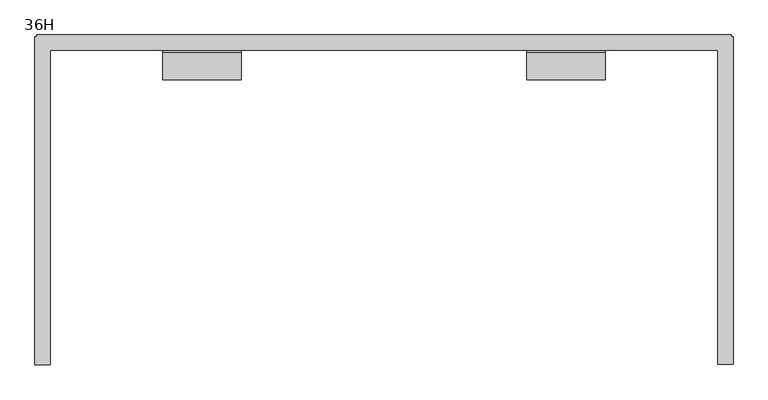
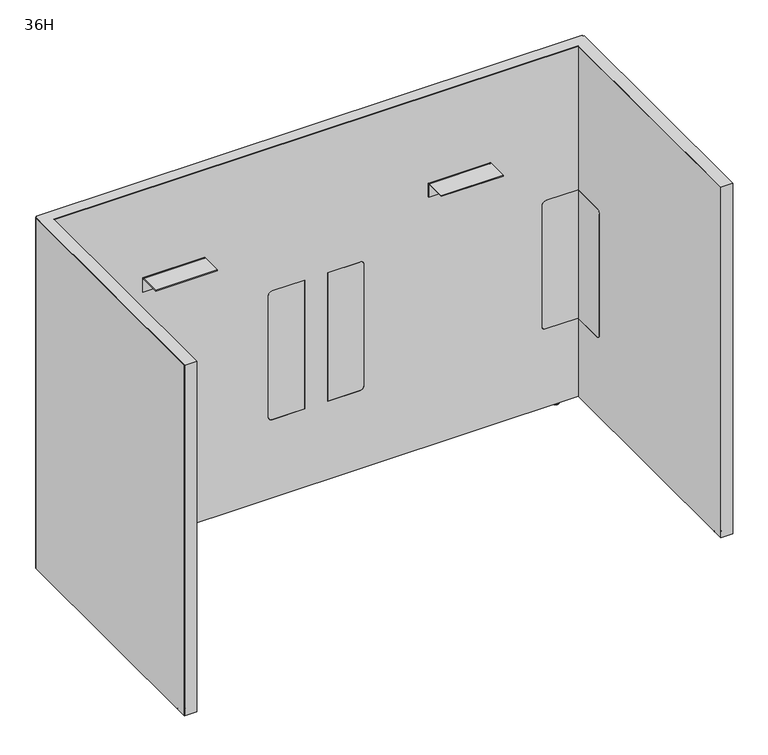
"""IFC4 building model written with IfcOpenShell, lengths in millimetres: furniture geometry, Steelcase - Answer Solution - Boundary Screen - L Return - Split : 36H."""

from ifc_helpers import new_model, si_unit, point, frame, frame_2d, origin, place, context, project, spatial, polyline, circle_curve, ellipse_curve, trimmed, segment, composite_curve, outline, extrude, faceted_brep, source, transform, mapped, element, save
from ifc_brep_helpers import plane_surface, cylinder_surface, revolved_surface, advanced_brep


def furniture_36h_0b0cf438(model_context):
    return source(origin(), model_context, "Body", "SolidModel", [
        extrude(outline(composite_curve([segment(polyline([(-109.3501471, 549.6162029), (-29.0550397, 549.6162029), (-29.0550397, 213.7762137), (-109.3501471, 213.7762137)]), True, "CONTINUOUS"), segment(trimmed(circle_curve(frame_2d((-109.3501471, 223.9362137)), 10.16), [point((-109.3501471, 213.7762137))], [point((-119.5101471, 223.9362137))], False, "CARTESIAN"), True, "CONTINUOUS"), segment(polyline([(-119.5101471, 223.9362137), (-119.5101471, 539.4562029)]), True, "CONTINUOUS"), segment(trimmed(circle_curve(frame_2d((-109.3501471, 539.4562029)), 10.16), [point((-119.5101471, 539.4562029))], [point((-109.3501471, 549.6162029))], False, "CARTESIAN"), True, "CONTINUOUS")], self_intersect=False)), frame((-418.5209652, 0.0, 0.0), z_axis=(1.0, 0.0, 0.0), x_axis=(0.0, 1.0, 0.0)), (0.0, 0.0, 1.0), 0.6401544),
        extrude(outline(composite_curve([segment(polyline([(-109.3501471, 549.6162029), (-29.0550397, 549.6162029), (-29.0550397, 213.7762137), (-109.3501471, 213.7762137)]), True, "CONTINUOUS"), segment(trimmed(circle_curve(frame_2d((-109.3501471, 223.9362137)), 10.16), [point((-109.3501471, 213.7762137))], [point((-119.5101471, 223.9362137))], False, "CARTESIAN"), True, "CONTINUOUS"), segment(polyline([(-119.5101471, 223.9362137), (-119.5101471, 539.4562029)]), True, "CONTINUOUS"), segment(trimmed(circle_curve(frame_2d((-109.3501471, 539.4562029)), 10.16), [point((-119.5101471, 539.4562029))], [point((-109.3501471, 549.6162029))], False, "CARTESIAN"), True, "CONTINUOUS")], self_intersect=False)), frame((877.5191891, 0.0, 0.0), z_axis=(1.0, 0.0, 0.0), x_axis=(0.0, 1.0, 0.0)), (0.0, 0.0, 1.0), 0.6401544),
        advanced_brep(
        [(892.3672074, -600.4136072, 0.0), (899.3216144, -600.4136072, 0.0), (885.4128003, -600.4136072, 0.0), (900.7762685, -600.4136072, 1.2700001), (883.9581463, -600.4136072, 1.2700001), (900.7762685, -600.4136072, 2.9673238), (883.9581463, -600.4136072, 2.9673238), (901.7427877, -600.4136072, 2.9673238), (882.991627, -600.4136072, 2.9673238), (901.7427877, -600.4136072, 9.9059849), (882.991627, -600.4136072, 9.9059849), (892.3672074, -600.4136072, 9.9059849)],
        [
            (0, 1),
            (1, 2, circle_curve(frame((892.3672074, -600.4136072, 0.0), z_axis=(0.0, 0.0, -1.0), x_axis=(1.0, 0.0, 0.0)), 6.9544071)),
            (2, 0),
            (2, 1, circle_curve(frame((892.3672074, -600.4136072, 0.0), z_axis=(0.0, 0.0, -1.0), x_axis=(1.0, 0.0, 0.0)), 6.9544071)),
            (1, 3, circle_curve(frame((899.4945484, -600.4136072, 1.2700001), z_axis=(0.0, -1.0, 0.0), x_axis=(0.0, 0.0, 1.0)), 1.2817201)),
            (3, 4, circle_curve(frame((892.3672074, -600.4136072, 1.2700001), z_axis=(0.0, 0.0, -1.0), x_axis=(1.0, 0.0, 0.0)), 8.4090611)),
            (4, 2, circle_curve(frame((885.2398663, -600.4136072, 1.2700001), z_axis=(0.0, -1.0, 0.0), x_axis=(0.0, 0.0, 1.0)), 1.2817201)),
            (4, 3, circle_curve(frame((892.3672074, -600.4136072, 1.2700001), z_axis=(0.0, 0.0, -1.0), x_axis=(1.0, 0.0, 0.0)), 8.4090611)),
            (3, 5),
            (5, 6, circle_curve(frame((892.3672074, -600.4136072, 2.9673238), z_axis=(0.0, 0.0, -1.0), x_axis=(1.0, 0.0, 0.0)), 8.4090611)),
            (6, 4),
            (6, 5, circle_curve(frame((892.3672074, -600.4136072, 2.9673238), z_axis=(0.0, 0.0, -1.0), x_axis=(1.0, 0.0, 0.0)), 8.4090611)),
            (5, 7),
            (7, 8, circle_curve(frame((892.3672074, -600.4136072, 2.9673238), z_axis=(0.0, 0.0, -1.0), x_axis=(1.0, 0.0, 0.0)), 9.3755804)),
            (8, 6),
            (8, 7, circle_curve(frame((892.3672074, -600.4136072, 2.9673238), z_axis=(0.0, 0.0, -1.0), x_axis=(1.0, 0.0, 0.0)), 9.3755804)),
            (7, 9),
            (9, 10, circle_curve(frame((892.3672074, -600.4136072, 9.9059849), z_axis=(0.0, 0.0, -1.0), x_axis=(1.0, 0.0, 0.0)), 9.3755804)),
            (10, 8),
            (10, 9, circle_curve(frame((892.3672074, -600.4136072, 9.9059849), z_axis=(0.0, 0.0, -1.0), x_axis=(1.0, 0.0, 0.0)), 9.3755804)),
            (9, 11),
            (11, 10),
        ],
        [
            plane_surface(frame((892.3672074, -600.4136072, 0.0), z_axis=(0.0, 0.0, -1.0), x_axis=(1.0, 0.0, 0.0))),
            revolved_surface(trimmed(ellipse_curve(frame((899.4945484, -600.4136072, 1.2700001), z_axis=(0.0, 1.0, 0.0), x_axis=(0.0, 0.0, 1.0)), 1.2817201, 1.2817201), [point((900.7762685, -600.4136072, 1.2700001))], [point((899.3216144, -600.4136072, 0.0))], True, "CARTESIAN"), (892.3672074, -600.4136072, 9.9059849), (0.0, 0.0, -1.0)),
            cylinder_surface(frame((892.3672074, -600.4136072, 9.9059849), z_axis=(0.0, 0.0, -1.0), x_axis=(1.0, 0.0, 0.0)), 8.4090611),
            plane_surface(frame((892.3672074, -600.4136072, 2.9673238), z_axis=(0.0, 0.0, -1.0), x_axis=(1.0, 0.0, 0.0))),
            cylinder_surface(frame((892.3672074, -600.4136072, 9.9059849), z_axis=(0.0, 0.0, -1.0), x_axis=(1.0, 0.0, 0.0)), 9.3755804),
            plane_surface(frame((892.3672074, -600.4136072, 9.9059849), z_axis=(0.0, 0.0, 1.0), x_axis=(1.0, 0.0, 0.0))),
        ],
        [
            (0, [[1, 2, 3]]),
            (0, [[-3, 4, -1]]),
            (1, [[-2, 5, 6, 7]]),
            (1, [[-4, -7, 8, -5]]),
            (2, [[-6, 9, 10, 11]]),
            (2, [[-8, -11, 12, -9]]),
            (3, [[-10, 13, 14, 15]]),
            (3, [[-12, -15, 16, -13]]),
            (4, [[-14, 17, 18, 19]]),
            (4, [[-16, -19, 20, -17]]),
            (5, [[-18, 21, 22]]),
            (5, [[-20, -22, -21]]),
        ],
    ),
        advanced_brep(
        [(-425.774422, -601.4042444, 0.0), (-439.6832361, -601.4042444, 0.0), (-432.7288291, -601.4042444, 0.0), (-424.319768, -601.4042444, 1.2700001), (-441.1378902, -601.4042444, 1.2700001), (-424.319768, -601.4042444, 2.9673238), (-441.1378902, -601.4042444, 2.9673238), (-423.3532487, -601.4042444, 2.9673238), (-442.1044095, -601.4042444, 2.9673238), (-423.3532487, -601.4042444, 9.9059849), (-442.1044095, -601.4042444, 9.9059849), (-432.7288291, -601.4042444, 9.9059849)],
        [
            (0, 1, circle_curve(frame((-432.7288291, -601.4042444, 0.0), z_axis=(0.0, 0.0, -1.0), x_axis=(-1.0, 0.0, 0.0)), 6.9544071)),
            (1, 2),
            (2, 0),
            (1, 0, circle_curve(frame((-432.7288291, -601.4042444, 0.0), z_axis=(0.0, 0.0, -1.0), x_axis=(-1.0, 0.0, 0.0)), 6.9544071)),
            (3, 4, circle_curve(frame((-432.7288291, -601.4042444, 1.2700001), z_axis=(0.0, 0.0, -1.0), x_axis=(-1.0, 0.0, 0.0)), 8.4090611)),
            (4, 1, circle_curve(frame((-439.8561701, -601.4042444, 1.2700001), z_axis=(0.0, -1.0, 0.0), x_axis=(0.0, 0.0, 1.0)), 1.2817201)),
            (0, 3, circle_curve(frame((-425.6014881, -601.4042444, 1.2700001), z_axis=(0.0, -1.0, 0.0), x_axis=(0.0, 0.0, 1.0)), 1.2817201)),
            (4, 3, circle_curve(frame((-432.7288291, -601.4042444, 1.2700001), z_axis=(0.0, 0.0, -1.0), x_axis=(-1.0, 0.0, 0.0)), 8.4090611)),
            (5, 6, circle_curve(frame((-432.7288291, -601.4042444, 2.9673238), z_axis=(0.0, 0.0, -1.0), x_axis=(-1.0, 0.0, 0.0)), 8.4090611)),
            (6, 4),
            (3, 5),
            (6, 5, circle_curve(frame((-432.7288291, -601.4042444, 2.9673238), z_axis=(0.0, 0.0, -1.0), x_axis=(-1.0, 0.0, 0.0)), 8.4090611)),
            (7, 8, circle_curve(frame((-432.7288291, -601.4042444, 2.9673238), z_axis=(0.0, 0.0, -1.0), x_axis=(-1.0, 0.0, 0.0)), 9.3755804)),
            (8, 6),
            (5, 7),
            (8, 7, circle_curve(frame((-432.7288291, -601.4042444, 2.9673238), z_axis=(0.0, 0.0, -1.0), x_axis=(-1.0, 0.0, 0.0)), 9.3755804)),
            (9, 10, circle_curve(frame((-432.7288291, -601.4042444, 9.9059849), z_axis=(0.0, 0.0, -1.0), x_axis=(-1.0, 0.0, 0.0)), 9.3755804)),
            (10, 8),
            (7, 9),
            (10, 9, circle_curve(frame((-432.7288291, -601.4042444, 9.9059849), z_axis=(0.0, 0.0, -1.0), x_axis=(-1.0, 0.0, 0.0)), 9.3755804)),
            (11, 10),
            (9, 11),
        ],
        [
            plane_surface(frame((-432.7288291, -601.4042444, 0.0), z_axis=(0.0, 0.0, -1.0), x_axis=(-1.0, 0.0, 0.0))),
            revolved_surface(trimmed(ellipse_curve(frame((-439.8561701, -601.4042444, 1.2700001), z_axis=(0.0, 1.0, 0.0), x_axis=(0.0, 0.0, 1.0)), 1.2817201, 1.2817201), [point((-439.6832361, -601.4042444, 0.0))], [point((-441.1378902, -601.4042444, 1.2700001))], True, "CARTESIAN"), (-432.7288291, -601.4042444, 9.9059849), (0.0, 0.0, 1.0)),
            cylinder_surface(frame((-432.7288291, -601.4042444, 9.9059849), z_axis=(0.0, 0.0, 1.0), x_axis=(-1.0, 0.0, 0.0)), 8.4090611),
            plane_surface(frame((-432.7288291, -601.4042444, 2.9673238), z_axis=(0.0, 0.0, -1.0), x_axis=(-1.0, 0.0, 0.0))),
            cylinder_surface(frame((-432.7288291, -601.4042444, 9.9059849), z_axis=(0.0, 0.0, 1.0), x_axis=(-1.0, 0.0, 0.0)), 9.3755804),
            plane_surface(frame((-432.7288291, -601.4042444, 9.9059849), z_axis=(0.0, 0.0, 1.0), x_axis=(-1.0, 0.0, 0.0))),
        ],
        [
            (0, [[1, 2, 3]]),
            (0, [[4, -3, -2]]),
            (1, [[5, 6, -1, 7]]),
            (1, [[8, -7, -4, -6]]),
            (2, [[9, 10, -5, 11]]),
            (2, [[12, -11, -8, -10]]),
            (3, [[13, 14, -9, 15]]),
            (3, [[16, -15, -12, -14]]),
            (4, [[17, 18, -13, 19]]),
            (4, [[20, -19, -16, -18]]),
            (5, [[21, -17, 22]]),
            (5, [[-22, -20, -21]]),
        ],
    ),
        faceted_brep([(903.9531179, 0.0, 925.322), (903.9531179, 0.0, 9.9059849), (902.9621491, 0.0, 9.9059849), (902.9621491, 0.0, 924.342118), (-443.3237709, 0.0, 924.342118), (-443.3237709, 0.0, 9.9059849), (-444.3147397, 0.0, 9.9059849), (-444.3147397, 0.0, 925.322), (-444.3147397, -29.6898332, 9.9059849), (-443.3237709, -29.6898332, 9.9059849), (-443.3237709, -29.6898332, 924.342118), (-444.3147397, -29.6898332, 924.342118), (902.9621491, -29.6898332, 924.342118), (902.9621491, -29.6898332, 9.9059849), (903.9531179, -29.6898332, 9.9059849), (903.9531179, -29.6898332, 924.342118), (-417.8808109, -29.6898332, 925.322), (-417.8808109, -29.6898332, 924.342118), (877.5191891, -29.6898332, 924.342118), (877.5191891, -29.6898332, 925.322), (903.9531179, -3.2625916, 925.322), (903.9531179, -3.2625916, 9.9059849), (903.9531179, -4.252647, 9.9059849), (903.9531179, -4.252647, 924.342118), (907.2152256, -3.2625916, 9.9059849), (907.2152256, -4.252647, 9.9059849), (902.9621491, -4.252647, 9.9059849), (877.5191891, -4.252647, 9.9059849), (877.5191891, -3.2625916, 9.9059849), (902.9621491, -3.2625916, 9.9059849), (-444.3147397, -3.2625916, 9.9059849), (-444.3147397, -3.2625916, 925.322), (-444.3147397, -4.252647, 924.342118), (-444.3147397, -4.252647, 9.9059849), (-447.5768473, -3.2625916, 925.322), (-447.5768473, -640.2804704, 925.322), (-417.8808109, -640.2804704, 925.322), (877.5191891, -639.2898332, 925.322), (907.2152256, -639.2898332, 925.322), (907.2152256, -3.2625916, 925.322), (902.9621491, -3.2625916, 924.342118), (902.9621491, -4.252647, 924.342118), (877.5191891, -3.2625916, 924.342118), (877.5191891, -4.252647, 924.342118), (907.2152256, -4.252647, 924.342118), (907.2152256, -638.299196, 924.342118), (877.5191891, -638.299196, 924.342118), (-417.8808109, -639.2898332, 924.342118), (-447.5768473, -639.2898332, 924.342118), (-447.5768473, -4.252647, 924.342118), (-443.3237709, -4.252647, 924.342118), (-417.8808109, -4.252647, 924.342118), (-417.8808109, -3.2625916, 924.342118), (-443.3237709, -3.2625916, 924.342118), (-443.3237709, -3.2625916, 9.9059849), (-443.3237709, -4.252647, 9.9059849), (-417.8808109, -3.2625916, 9.9059849), (-417.8808109, -4.252647, 9.9059849), (-447.5768473, -4.252647, 9.9059849), (-447.5768473, -3.2625916, 9.9059849), (-417.8808109, -640.2804704, 9.9059849), (-417.8808109, -639.2898332, 9.9059849), (-447.5768473, -639.2898332, 9.9059849), (-447.5768473, -640.2804704, 9.9059849), (877.5191891, -638.299196, 9.9059849), (877.5191891, -639.2898332, 9.9059849), (907.2152256, -639.2898332, 9.9059849), (907.2152256, -638.299196, 9.9059849)], [[[0, 1, 2, 3, 4, 5, 6, 7]], [[8, 9, 10, 11]], [[12, 13, 14, 15]], [[16, 17, 18, 19]], [[1, 0, 20, 21]], [[15, 14, 22, 23]], [[2, 1, 21, 24, 25, 22, 14, 13, 26, 27, 28, 29]], [[7, 6, 30, 31]], [[8, 11, 32, 33]], [[0, 7, 31, 34, 35, 36, 16, 19, 37, 38, 39, 20]], [[3, 2, 29, 40]], [[13, 12, 41, 26]], [[4, 3, 40, 42, 43, 41, 12, 15, 23, 44, 45, 46, 18, 17, 47, 48, 49, 32, 11, 10, 50, 51, 52, 53]], [[5, 4, 53, 54]], [[10, 9, 55, 50]], [[6, 5, 54, 56, 57, 55, 9, 8, 33, 58, 59, 30]], [[36, 60, 61, 47, 17, 16]], [[51, 57, 56, 52]], [[35, 34, 59, 58, 49, 48, 62, 63]], [[56, 54, 53, 52]], [[59, 34, 31, 30]], [[57, 51, 50, 55]], [[49, 58, 33, 32]], [[47, 61, 62, 48]], [[61, 60, 63, 62]], [[60, 36, 35, 63]], [[28, 27, 43, 42]], [[46, 64, 65, 37, 19, 18]], [[38, 66, 67, 45, 44, 25, 24, 39]], [[29, 28, 42, 40]], [[39, 24, 21, 20]], [[43, 27, 26, 41]], [[25, 44, 23, 22]], [[64, 46, 45, 67]], [[65, 64, 67, 66]], [[37, 65, 66, 38]]]),
        advanced_brep(
        [(-370.386307, -14.8449166, 9.9059849), (-370.386307, -5.9309607, 9.9059849), (-370.386307, -23.7588726, 9.9059849), (-370.386307, -5.9309607, 2.9673238), (-370.386307, -23.7588726, 2.9673238), (-370.386307, -6.8982978, 2.9673238), (-370.386307, -22.7915354, 2.9673238), (-370.386307, -6.8982978, 1.6569081), (-370.386307, -22.7915354, 1.6569081), (-370.386307, -8.5552059, 0.0), (-370.386307, -21.1346274, 0.0), (-370.386307, -14.8449166, 0.0)],
        [
            (0, 1),
            (1, 2, circle_curve(frame((-370.386307, -14.8449166, 9.9059849), z_axis=(0.0, 0.0, 1.0), x_axis=(0.0, 1.0, 0.0)), 8.913956)),
            (2, 0),
            (2, 1, circle_curve(frame((-370.386307, -14.8449166, 9.9059849), z_axis=(0.0, 0.0, 1.0), x_axis=(0.0, 1.0, 0.0)), 8.913956)),
            (1, 3),
            (3, 4, circle_curve(frame((-370.386307, -14.8449166, 2.9673238), z_axis=(0.0, 0.0, 1.0), x_axis=(0.0, 1.0, 0.0)), 8.913956)),
            (4, 2),
            (4, 3, circle_curve(frame((-370.386307, -14.8449166, 2.9673238), z_axis=(0.0, 0.0, 1.0), x_axis=(0.0, 1.0, 0.0)), 8.913956)),
            (3, 5),
            (5, 6, circle_curve(frame((-370.386307, -14.8449166, 2.9673238), z_axis=(0.0, 0.0, 1.0), x_axis=(0.0, 1.0, 0.0)), 7.9466188)),
            (6, 4),
            (6, 5, circle_curve(frame((-370.386307, -14.8449166, 2.9673238), z_axis=(0.0, 0.0, 1.0), x_axis=(0.0, 1.0, 0.0)), 7.9466188)),
            (5, 7),
            (7, 8, circle_curve(frame((-370.386307, -14.8449166, 1.6569081), z_axis=(0.0, 0.0, 1.0), x_axis=(0.0, 1.0, 0.0)), 7.9466188)),
            (8, 6),
            (8, 7, circle_curve(frame((-370.386307, -14.8449166, 1.6569081), z_axis=(0.0, 0.0, 1.0), x_axis=(0.0, 1.0, 0.0)), 7.9466188)),
            (7, 9, circle_curve(frame((-370.386307, -8.5552059, 1.6569081), z_axis=(-1.0, 0.0, 0.0), x_axis=(0.0, 1.0, 0.0)), 1.6569081)),
            (9, 10, circle_curve(frame((-370.386307, -14.8449166, 0.0), z_axis=(0.0, 0.0, 1.0), x_axis=(0.0, 1.0, 0.0)), 6.2897107)),
            (10, 8, circle_curve(frame((-370.386307, -21.1346274, 1.6569081), z_axis=(-1.0, 0.0, 0.0), x_axis=(0.0, -1.0, 0.0)), 1.6569081)),
            (10, 9, circle_curve(frame((-370.386307, -14.8449166, 0.0), z_axis=(0.0, 0.0, 1.0), x_axis=(0.0, 1.0, 0.0)), 6.2897107)),
            (9, 11),
            (11, 10),
        ],
        [
            plane_surface(frame((-370.386307, -14.8449166, 9.9059849), z_axis=(0.0, 0.0, 1.0), x_axis=(0.0, 1.0, 0.0))),
            cylinder_surface(frame((-370.386307, -14.8449166, 9.9059849), z_axis=(0.0, 0.0, 1.0), x_axis=(0.0, 1.0, 0.0)), 8.913956),
            plane_surface(frame((-370.386307, -14.8449166, 2.9673238), z_axis=(0.0, 0.0, -1.0), x_axis=(0.0, 1.0, 0.0))),
            cylinder_surface(frame((-370.386307, -14.8449166, 9.9059849), z_axis=(0.0, 0.0, 1.0), x_axis=(0.0, 1.0, 0.0)), 7.9466188),
            revolved_surface(trimmed(ellipse_curve(frame((-370.386307, -8.5552059, 1.6569081), z_axis=(1.0, 0.0, 0.0), x_axis=(0.0, 1.0, 0.0)), 1.6569081, 1.6569081), [point((-370.386307, -8.5552059, 0.0))], [point((-370.386307, -6.8982978, 1.6569081))], True, "CARTESIAN"), (-370.386307, -14.8449166, 9.9059849), (0.0, 0.0, 1.0)),
            plane_surface(frame((-370.386307, -14.8449166, 0.0), z_axis=(0.0, 0.0, -1.0), x_axis=(0.0, 1.0, 0.0))),
        ],
        [
            (0, [[1, 2, 3]]),
            (0, [[-3, 4, -1]]),
            (1, [[-2, 5, 6, 7]]),
            (1, [[-4, -7, 8, -5]]),
            (2, [[-6, 9, 10, 11]]),
            (2, [[-8, -11, 12, -9]]),
            (3, [[-10, 13, 14, 15]]),
            (3, [[-12, -15, 16, -13]]),
            (4, [[-14, 17, 18, 19]]),
            (4, [[-16, -19, 20, -17]]),
            (5, [[-18, 21, 22]]),
            (5, [[-20, -22, -21]]),
        ],
    ),
        extrude(outline(composite_curve([segment(polyline([(-86.8398151, 696.4680019), (-86.8398151, 698.5), (-34.9450855, 698.5)]), True, "CONTINUOUS"), segment(trimmed(circle_curve(frame_2d((-34.9450855, 693.2447477)), 5.2552523), [point((-34.9450855, 698.5))], [point((-29.6898332, 693.2447477))], False, "CARTESIAN"), True, "CONTINUOUS"), segment(polyline([(-29.6898332, 693.2447477), (-29.6898332, 660.4), (-31.7218162, 660.4), (-31.7218162, 693.0058743)]), True, "CONTINUOUS"), segment(trimmed(circle_curve(frame_2d((-35.1839438, 693.0058743)), 3.4621276), [point((-31.7218162, 693.0058743))], [point((-35.1839438, 696.4680019))], True, "CARTESIAN"), True, "CONTINUOUS"), segment(polyline([(-35.1839438, 696.4680019), (-86.8398151, 696.4680019)]), True, "CONTINUOUS")], self_intersect=False)), frame((506.4762371, 0.0, 0.0), z_axis=(1.0, 0.0, 0.0), x_axis=(0.0, 1.0, 0.0)), (0.0, 0.0, 1.0), 152.4000969),
        extrude(outline(composite_curve([segment(polyline([(-86.8398151, 696.4680019), (-86.8398151, 698.5), (-34.9450855, 698.5)]), True, "CONTINUOUS"), segment(trimmed(circle_curve(frame_2d((-34.9450855, 693.2447477)), 5.2552523), [point((-34.9450855, 698.5))], [point((-29.6898332, 693.2447477))], False, "CARTESIAN"), True, "CONTINUOUS"), segment(polyline([(-29.6898332, 693.2447477), (-29.6898332, 660.4), (-31.7218162, 660.4), (-31.7218162, 693.0058743)]), True, "CONTINUOUS"), segment(trimmed(circle_curve(frame_2d((-35.1839438, 693.0058743)), 3.4621276), [point((-31.7218162, 693.0058743))], [point((-35.1839438, 696.4680019))], True, "CARTESIAN"), True, "CONTINUOUS"), segment(polyline([(-35.1839438, 696.4680019), (-86.8398151, 696.4680019)]), True, "CONTINUOUS")], self_intersect=False)), frame((-199.2364763, 0.0, 0.0), z_axis=(1.0, 0.0, 0.0), x_axis=(0.0, 1.0, 0.0)), (0.0, 0.0, 1.0), 152.4000969),
        advanced_brep(
        [(830.0246853, -23.7588726, 9.9059849), (830.0246853, -5.9309607, 9.9059849), (830.0246853, -14.8449166, 9.9059849), (830.0246853, -23.7588726, 2.9673238), (830.0246853, -5.9309607, 2.9673238), (830.0246853, -22.7915354, 2.9673238), (830.0246853, -6.8982978, 2.9673238), (830.0246853, -22.7915354, 1.6569081), (830.0246853, -6.8982978, 1.6569081), (830.0246853, -21.1346274, 0.0), (830.0246853, -8.5552059, 0.0), (830.0246853, -14.8449166, 0.0)],
        [
            (0, 1, circle_curve(frame((830.0246853, -14.8449166, 9.9059849), z_axis=(0.0, 0.0, 1.0), x_axis=(0.0, 1.0, 0.0)), 8.913956)),
            (1, 2),
            (2, 0),
            (1, 0, circle_curve(frame((830.0246853, -14.8449166, 9.9059849), z_axis=(0.0, 0.0, 1.0), x_axis=(0.0, 1.0, 0.0)), 8.913956)),
            (3, 4, circle_curve(frame((830.0246853, -14.8449166, 2.9673238), z_axis=(0.0, 0.0, 1.0), x_axis=(0.0, 1.0, 0.0)), 8.913956)),
            (4, 1),
            (0, 3),
            (4, 3, circle_curve(frame((830.0246853, -14.8449166, 2.9673238), z_axis=(0.0, 0.0, 1.0), x_axis=(0.0, 1.0, 0.0)), 8.913956)),
            (5, 6, circle_curve(frame((830.0246853, -14.8449166, 2.9673238), z_axis=(0.0, 0.0, 1.0), x_axis=(0.0, 1.0, 0.0)), 7.9466188)),
            (6, 4),
            (3, 5),
            (6, 5, circle_curve(frame((830.0246853, -14.8449166, 2.9673238), z_axis=(0.0, 0.0, 1.0), x_axis=(0.0, 1.0, 0.0)), 7.9466188)),
            (7, 8, circle_curve(frame((830.0246853, -14.8449166, 1.6569081), z_axis=(0.0, 0.0, 1.0), x_axis=(0.0, 1.0, 0.0)), 7.9466188)),
            (8, 6),
            (5, 7),
            (8, 7, circle_curve(frame((830.0246853, -14.8449166, 1.6569081), z_axis=(0.0, 0.0, 1.0), x_axis=(0.0, 1.0, 0.0)), 7.9466188)),
            (9, 10, circle_curve(frame((830.0246853, -14.8449166, 0.0), z_axis=(0.0, 0.0, 1.0), x_axis=(0.0, 1.0, 0.0)), 6.2897107)),
            (10, 8, circle_curve(frame((830.0246853, -8.5552059, 1.6569081), z_axis=(1.0, 0.0, 0.0), x_axis=(0.0, 1.0, 0.0)), 1.6569081)),
            (7, 9, circle_curve(frame((830.0246853, -21.1346274, 1.6569081), z_axis=(1.0, 0.0, 0.0), x_axis=(0.0, -1.0, 0.0)), 1.6569081)),
            (10, 9, circle_curve(frame((830.0246853, -14.8449166, 0.0), z_axis=(0.0, 0.0, 1.0), x_axis=(0.0, 1.0, 0.0)), 6.2897107)),
            (11, 10),
            (9, 11),
        ],
        [
            plane_surface(frame((830.0246853, -14.8449166, 9.9059849), z_axis=(0.0, 0.0, 1.0), x_axis=(0.0, 1.0, 0.0))),
            cylinder_surface(frame((830.0246853, -14.8449166, 9.9059849), z_axis=(0.0, 0.0, -1.0), x_axis=(0.0, 1.0, 0.0)), 8.913956),
            plane_surface(frame((830.0246853, -14.8449166, 2.9673238), z_axis=(0.0, 0.0, -1.0), x_axis=(0.0, 1.0, 0.0))),
            cylinder_surface(frame((830.0246853, -14.8449166, 9.9059849), z_axis=(0.0, 0.0, -1.0), x_axis=(0.0, 1.0, 0.0)), 7.9466188),
            revolved_surface(trimmed(ellipse_curve(frame((830.0246853, -8.5552059, 1.6569081), z_axis=(-1.0, 0.0, 0.0), x_axis=(0.0, 1.0, 0.0)), 1.6569081, 1.6569081), [point((830.0246853, -6.8982978, 1.6569081))], [point((830.0246853, -8.5552059, 0.0))], True, "CARTESIAN"), (830.0246853, -14.8449166, 9.9059849), (0.0, 0.0, -1.0)),
            plane_surface(frame((830.0246853, -14.8449166, 0.0), z_axis=(0.0, 0.0, -1.0), x_axis=(0.0, 1.0, 0.0))),
        ],
        [
            (0, [[1, 2, 3]]),
            (0, [[4, -3, -2]]),
            (1, [[5, 6, -1, 7]]),
            (1, [[8, -7, -4, -6]]),
            (2, [[9, 10, -5, 11]]),
            (2, [[12, -11, -8, -10]]),
            (3, [[13, 14, -9, 15]]),
            (3, [[16, -15, -12, -14]]),
            (4, [[17, 18, -13, 19]]),
            (4, [[20, -19, -16, -18]]),
            (5, [[21, -17, 22]]),
            (5, [[-22, -20, -21]]),
        ],
    ),
        advanced_brep(
        [(-443.3237709, 0.0, 924.342118), (902.9621491, 0.0, 924.342118), (902.9621491, 0.0, 9.9059849), (-443.3237709, 0.0, 9.9059849), (201.5038947, -29.0550397, 549.6162029), (121.849997, -29.0550397, 549.6162029), (111.689997, -29.0550397, 539.4562029), (111.689997, -29.0550397, 223.9362137), (121.849997, -29.0550397, 213.7762137), (201.5038947, -29.0550397, 213.7762137), (347.9483813, -29.0550397, 539.4562029), (337.7883813, -29.0550397, 549.6162029), (258.1344836, -29.0550397, 549.6162029), (258.1344836, -29.0550397, 213.7762137), (337.7883813, -29.0550397, 213.7762137), (347.9483813, -29.0550397, 223.9362137), (-418.5209652, -29.0550397, 549.6162029), (-418.5209652, -29.0550397, 213.7762137), (-337.9725485, -29.0550397, 213.7762137), (-327.8125485, -29.0550397, 223.9362137), (-327.8125485, -29.0550397, 539.4562029), (-337.9725485, -29.0550397, 549.6162029), (878.1593435, -29.0550397, 213.7762137), (878.1593435, -29.0550397, 549.6162029), (797.6109268, -29.0550397, 549.6162029), (787.4509268, -29.0550397, 539.4562029), (787.4509268, -29.0550397, 223.9362137), (797.6109268, -29.0550397, 213.7762137), (-417.8808109, -639.2898332, 924.342118), (-417.8808109, -639.2898332, 9.9059849), (-417.8808109, -29.6898332, 9.9059849), (-417.8808109, -29.6898332, 213.7762137), (-417.8808109, -109.3501471, 213.7762137), (-417.8808109, -119.5101471, 223.9362137), (-417.8808109, -119.5101471, 539.4562029), (-417.8808109, -109.3501471, 549.6162029), (-417.8808109, -29.6898332, 549.6162029), (-417.8808109, -29.6898332, 924.342118), (-447.5768473, -639.2898332, 924.342118), (-447.5768473, -4.252647, 924.342118), (-447.5768473, -4.252647, 9.9059849), (-447.5768473, -639.2898332, 9.9059849), (877.5191891, -29.6898332, 924.342118), (877.5191891, -638.299196, 924.342118), (907.2152256, -638.299196, 924.342118), (907.2152256, -4.252647, 924.342118), (902.9621491, -4.252647, 924.342118), (-443.3237709, -4.252647, 924.342118), (-443.3237709, -4.252647, 9.9059849), (902.9621491, -4.252647, 9.9059849), (907.2152256, -4.252647, 9.9059849), (907.2152256, -638.299196, 9.9059849), (877.5191891, -638.299196, 9.9059849), (877.5191891, -29.6898332, 9.9059849), (-418.5209652, -119.5101471, 539.4562029), (-418.5209652, -109.3501471, 549.6162029), (-418.5209652, -119.5101471, 223.9362137), (-418.5209652, -109.3501471, 213.7762137), (-337.9725485, -29.6898332, 213.7762137), (-337.9725485, -29.6898332, 549.6162029), (797.6109268, -29.6898332, 213.7762137), (787.4509268, -29.6898332, 223.9362137), (787.4509268, -29.6898332, 539.4562029), (797.6109268, -29.6898332, 549.6162029), (877.5191891, -29.6898332, 549.6162029), (-327.8125485, -29.6898332, 539.4562029), (-327.8125485, -29.6898332, 223.9362137), (877.5191891, -29.6898332, 213.7762137), (121.849997, -29.6898332, 549.6162029), (201.5038947, -29.6898332, 549.6162029), (201.5038947, -29.6898332, 213.7762137), (121.849997, -29.6898332, 213.7762137), (111.689997, -29.6898332, 223.9362137), (111.689997, -29.6898332, 539.4562029), (337.7883813, -29.6898332, 549.6162029), (347.9483813, -29.6898332, 539.4562029), (347.9483813, -29.6898332, 223.9362137), (337.7883813, -29.6898332, 213.7762137), (258.1344836, -29.6898332, 213.7762137), (258.1344836, -29.6898332, 549.6162029), (878.1593435, -109.3501471, 549.6162029), (877.5191891, -109.3501471, 549.6162029), (878.1593435, -109.3501471, 213.7762137), (878.1593435, -119.5101471, 223.9362137), (878.1593435, -119.5101471, 539.4562029), (877.5191891, -109.3501471, 213.7762137), (877.5191891, -119.5101471, 539.4562029), (877.5191891, -119.5101471, 223.9362137)],
        [
            (0, 1),
            (1, 2),
            (2, 3),
            (3, 0),
            (4, 5),
            (5, 6, circle_curve(frame((121.849997, -29.0550397, 539.4562029), z_axis=(0.0, -1.0, 0.0), x_axis=(0.0, 0.0, 1.0)), 10.16)),
            (6, 7),
            (7, 8, circle_curve(frame((121.849997, -29.0550397, 223.9362137), z_axis=(0.0, -1.0, 0.0), x_axis=(0.0, 0.0, 1.0)), 10.16)),
            (8, 9),
            (9, 4),
            (10, 11, circle_curve(frame((337.7883813, -29.0550397, 539.4562029), z_axis=(0.0, -1.0, 0.0), x_axis=(0.0, 0.0, 1.0)), 10.16)),
            (11, 12),
            (12, 13),
            (13, 14),
            (14, 15, circle_curve(frame((337.7883813, -29.0550397, 223.9362137), z_axis=(0.0, -1.0, 0.0), x_axis=(0.0, 0.0, 1.0)), 10.16)),
            (15, 10),
            (16, 17),
            (17, 18),
            (18, 19, circle_curve(frame((-337.9725485, -29.0550397, 223.9362137), z_axis=(0.0, -1.0, 0.0), x_axis=(0.0, 0.0, 1.0)), 10.16)),
            (19, 20),
            (20, 21, circle_curve(frame((-337.9725485, -29.0550397, 539.4562029), z_axis=(0.0, -1.0, 0.0), x_axis=(0.0, 0.0, 1.0)), 10.16)),
            (21, 16),
            (22, 23),
            (23, 24),
            (24, 25, circle_curve(frame((797.6109268, -29.0550397, 539.4562029), z_axis=(0.0, -1.0, 0.0), x_axis=(0.0, 0.0, 1.0)), 10.16)),
            (25, 26),
            (26, 27, circle_curve(frame((797.6109268, -29.0550397, 223.9362137), z_axis=(0.0, -1.0, 0.0), x_axis=(0.0, 0.0, 1.0)), 10.16)),
            (27, 22),
            (28, 29),
            (29, 30),
            (30, 31),
            (31, 32),
            (32, 33, circle_curve(frame((-417.8808109, -109.3501471, 223.9362137), z_axis=(-1.0, 0.0, 0.0), x_axis=(0.0, 1.0, 0.0)), 10.16)),
            (33, 34),
            (34, 35, circle_curve(frame((-417.8808109, -109.3501471, 539.4562029), z_axis=(-1.0, 0.0, 0.0), x_axis=(0.0, 1.0, 0.0)), 10.16)),
            (35, 36),
            (36, 37),
            (37, 28),
            (38, 39),
            (39, 40),
            (40, 41),
            (41, 38),
            (38, 28),
            (37, 42),
            (42, 43),
            (43, 44),
            (44, 45),
            (45, 46),
            (46, 1),
            (0, 47),
            (47, 39),
            (47, 48),
            (48, 40),
            (48, 3),
            (2, 49),
            (49, 50),
            (50, 51),
            (51, 52),
            (52, 53),
            (53, 30),
            (29, 41),
            (34, 54),
            (54, 55, circle_curve(frame((-418.5209652, -109.3501471, 539.4562029), z_axis=(-1.0, 0.0, 0.0), x_axis=(0.0, 1.0, 0.0)), 10.16)),
            (55, 35),
            (33, 56),
            (56, 54),
            (32, 57),
            (57, 56, circle_curve(frame((-418.5209652, -109.3501471, 223.9362137), z_axis=(-1.0, 0.0, 0.0), x_axis=(0.0, 1.0, 0.0)), 10.16)),
            (58, 18),
            (17, 57),
            (31, 58),
            (21, 59),
            (59, 36),
            (55, 16),
            (60, 61, circle_curve(frame((797.6109268, -29.6898332, 223.9362137), z_axis=(0.0, 1.0, 0.0), x_axis=(0.0, 0.0, 1.0)), 10.16)),
            (61, 62),
            (62, 63, circle_curve(frame((797.6109268, -29.6898332, 539.4562029), z_axis=(0.0, 1.0, 0.0), x_axis=(0.0, 0.0, 1.0)), 10.16)),
            (63, 64),
            (64, 42),
            (59, 65, circle_curve(frame((-337.9725485, -29.6898332, 539.4562029), z_axis=(0.0, 1.0, 0.0), x_axis=(0.0, 0.0, 1.0)), 10.16)),
            (65, 66),
            (66, 58, circle_curve(frame((-337.9725485, -29.6898332, 223.9362137), z_axis=(0.0, 1.0, 0.0), x_axis=(0.0, 0.0, 1.0)), 10.16)),
            (53, 67),
            (67, 60),
            (68, 69),
            (69, 70),
            (70, 71),
            (71, 72, circle_curve(frame((121.849997, -29.6898332, 223.9362137), z_axis=(0.0, 1.0, 0.0), x_axis=(0.0, 0.0, 1.0)), 10.16)),
            (72, 73),
            (73, 68, circle_curve(frame((121.849997, -29.6898332, 539.4562029), z_axis=(0.0, 1.0, 0.0), x_axis=(0.0, 0.0, 1.0)), 10.16)),
            (74, 75, circle_curve(frame((337.7883813, -29.6898332, 539.4562029), z_axis=(0.0, 1.0, 0.0), x_axis=(0.0, 0.0, 1.0)), 10.16)),
            (75, 76),
            (76, 77, circle_curve(frame((337.7883813, -29.6898332, 223.9362137), z_axis=(0.0, 1.0, 0.0), x_axis=(0.0, 0.0, 1.0)), 10.16)),
            (77, 78),
            (78, 79),
            (79, 74),
            (46, 49),
            (68, 5),
            (4, 69),
            (9, 70),
            (8, 71),
            (7, 72),
            (6, 73),
            (74, 11),
            (10, 75),
            (15, 76),
            (14, 77),
            (13, 78),
            (12, 79),
            (23, 80),
            (80, 81),
            (81, 64),
            (63, 24),
            (82, 83, circle_curve(frame((878.1593435, -109.3501471, 223.9362137), z_axis=(-1.0, 0.0, 0.0), x_axis=(0.0, 1.0, 0.0)), 10.16)),
            (83, 84),
            (84, 80, circle_curve(frame((878.1593435, -109.3501471, 539.4562029), z_axis=(-1.0, 0.0, 0.0), x_axis=(0.0, 1.0, 0.0)), 10.16)),
            (22, 82),
            (27, 60),
            (67, 85),
            (85, 82),
            (26, 61),
            (25, 62),
            (66, 19),
            (65, 20),
            (52, 43),
            (81, 86, circle_curve(frame((877.5191891, -109.3501471, 539.4562029), z_axis=(1.0, 0.0, 0.0), x_axis=(0.0, 1.0, 0.0)), 10.16)),
            (86, 87),
            (87, 85, circle_curve(frame((877.5191891, -109.3501471, 223.9362137), z_axis=(1.0, 0.0, 0.0), x_axis=(0.0, 1.0, 0.0)), 10.16)),
            (44, 51),
            (50, 45),
            (84, 86),
            (83, 87),
        ],
        [
            plane_surface(frame((347.9483813, 0.0, 549.6162029), z_axis=(0.0, 1.0, 0.0), x_axis=(0.0, 0.0, -1.0))),
            plane_surface(frame((347.9483813, -29.0550397, 549.6162029), z_axis=(0.0, -1.0, 0.0), x_axis=(0.0, 0.0, 1.0))),
            plane_surface(frame((-417.8808109, -4.252647, 924.342118), z_axis=(1.0, 0.0, 0.0), x_axis=(0.0, -1.0, 0.0))),
            plane_surface(frame((-447.5768473, -4.252647, 924.342118), z_axis=(-1.0, 0.0, 0.0), x_axis=(0.0, 1.0, 0.0))),
            plane_surface(frame((-447.5768473, -639.2898332, 924.342118), z_axis=(0.0, 0.0, 1.0), x_axis=(1.0, 0.0, 0.0))),
            plane_surface(frame((-447.5768473, -4.252647, 924.342118), z_axis=(0.0, 1.0, 0.0), x_axis=(1.0, 0.0, 0.0))),
            plane_surface(frame((-447.5768473, -4.252647, 9.9059849), z_axis=(0.0, 0.0, -1.0), x_axis=(1.0, 0.0, 0.0))),
            plane_surface(frame((-447.5768473, -639.2898332, 9.9059849), z_axis=(0.0, -1.0, 0.0), x_axis=(1.0, 0.0, 0.0))),
            revolved_surface(polyline([(-417.88081090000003, -99.1901471, 539.4562029), (-418.5209652, -99.1901471, 539.4562029)]), (830.0246853, -109.3501471, 539.4562029), (1.0, 0.0, 0.0)),
            plane_surface(frame((-447.5768473, -119.5101471, 539.4562029), z_axis=(0.0, 1.0, 0.0), x_axis=(1.0, 0.0, 0.0))),
            revolved_surface(polyline([(-417.88081090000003, -99.1901471, 223.9362137), (-418.5209652, -99.1901471, 223.9362137)]), (830.0246853, -109.3501471, 223.9362137), (1.0, 0.0, 0.0)),
            plane_surface(frame((-447.5768473, -109.3501471, 213.7762137), z_axis=(0.0, 0.0, 1.0), x_axis=(1.0, 0.0, 0.0))),
            plane_surface(frame((-447.5768473, -29.0550397, 549.6162029), z_axis=(0.0, 0.0, -1.0), x_axis=(1.0, 0.0, 0.0))),
            plane_surface(frame((902.9621491, -29.6898332, 924.342118), z_axis=(0.0, -1.0, 0.0), x_axis=(-1.0, 0.0, 0.0))),
            plane_surface(frame((-443.3237709, 0.0, 9.9059849), z_axis=(-1.0, 0.0, 0.0), x_axis=(0.0, -1.0, 0.0))),
            plane_surface(frame((902.9621491, 0.0, 924.342118), z_axis=(1.0, 0.0, 0.0), x_axis=(0.0, -1.0, 0.0))),
            plane_surface(frame((201.5038947, 0.0, 549.6162029), z_axis=(0.0, 0.0, -1.0), x_axis=(0.0, -1.0, 0.0))),
            plane_surface(frame((201.5038947, 0.0, 213.7762137), z_axis=(-1.0, 0.0, 0.0), x_axis=(0.0, -1.0, 0.0))),
            plane_surface(frame((121.849997, 0.0, 213.7762137), z_axis=(0.0, 0.0, 1.0), x_axis=(0.0, -1.0, 0.0))),
            revolved_surface(polyline([(121.849997, -29.6898332, 234.0962137), (121.849997, -29.0550397, 234.0962137)]), (121.849997, -29.6898332, 223.9362137), (0.0, -1.0, 0.0)),
            plane_surface(frame((111.689997, 0.0, 539.4562029), z_axis=(1.0, 0.0, 0.0), x_axis=(0.0, -1.0, 0.0))),
            revolved_surface(polyline([(121.849997, -29.6898332, 549.6162029), (121.849997, -29.0550397, 549.6162029)]), (121.849997, -29.6898332, 539.4562029), (0.0, -1.0, 0.0)),
            revolved_surface(polyline([(337.7883813, -29.6898332, 549.6162029), (337.7883813, -29.0550397, 549.6162029)]), (337.7883813, -29.6898332, 539.4562029), (0.0, -1.0, 0.0)),
            plane_surface(frame((347.9483813, 0.0, 223.9362137), z_axis=(-1.0, 0.0, 0.0), x_axis=(0.0, -1.0, 0.0))),
            revolved_surface(polyline([(337.7883813, -29.6898332, 234.0962137), (337.7883813, -29.0550397, 234.0962137)]), (337.7883813, -29.6898332, 223.9362137), (0.0, -1.0, 0.0)),
            plane_surface(frame((258.1344836, 0.0, 213.7762137), z_axis=(0.0, 0.0, 1.0), x_axis=(0.0, -1.0, 0.0))),
            plane_surface(frame((258.1344836, 0.0, 549.6162029), z_axis=(1.0, 0.0, 0.0), x_axis=(0.0, -1.0, 0.0))),
            plane_surface(frame((337.7883813, 0.0, 549.6162029), z_axis=(0.0, 0.0, -1.0), x_axis=(0.0, -1.0, 0.0))),
            plane_surface(frame((878.1593435, 0.0, 549.6162029), z_axis=(0.0, 0.0, -1.0), x_axis=(0.0, -1.0, 0.0))),
            plane_surface(frame((878.1593435, 0.0, 213.7762137), z_axis=(-1.0, 0.0, 0.0), x_axis=(0.0, -1.0, 0.0))),
            plane_surface(frame((797.6109268, 0.0, 213.7762137), z_axis=(0.0, 0.0, 1.0), x_axis=(0.0, -1.0, 0.0))),
            revolved_surface(polyline([(797.6109268, -29.6898332, 234.0962137), (797.6109268, -29.0550397, 234.0962137)]), (797.6109268, -29.6898332, 223.9362137), (0.0, -1.0, 0.0)),
            plane_surface(frame((787.4509268, 0.0, 539.4562029), z_axis=(1.0, 0.0, 0.0), x_axis=(0.0, -1.0, 0.0))),
            revolved_surface(polyline([(797.6109268, -29.6898332, 549.6162029), (797.6109268, -29.0550397, 549.6162029)]), (797.6109268, -29.6898332, 539.4562029), (0.0, -1.0, 0.0)),
            plane_surface(frame((-418.5209652, 0.0, 549.6162029), z_axis=(1.0, 0.0, 0.0), x_axis=(0.0, -1.0, 0.0))),
            revolved_surface(polyline([(-337.9725485, -29.6898332, 234.0962137), (-337.9725485, -29.0550397, 234.0962137)]), (-337.9725485, -29.6898332, 223.9362137), (0.0, -1.0, 0.0)),
            plane_surface(frame((-327.8125485, 0.0, 223.9362137), z_axis=(-1.0, 0.0, 0.0), x_axis=(0.0, -1.0, 0.0))),
            revolved_surface(polyline([(-337.9725485, -29.6898332, 549.6162029), (-337.9725485, -29.0550397, 549.6162029)]), (-337.9725485, -29.6898332, 539.4562029), (0.0, -1.0, 0.0)),
            plane_surface(frame((877.5191891, -638.299196, 924.342118), z_axis=(-1.0, 0.0, 0.0), x_axis=(0.0, 0.0, 1.0))),
            plane_surface(frame((907.2152256, -638.299196, 924.342118), z_axis=(1.0, 0.0, 0.0), x_axis=(0.0, 0.0, -1.0))),
            plane_surface(frame((907.2152256, -4.252647, 9.9059849), z_axis=(0.0, 1.0, 0.0), x_axis=(-1.0, 0.0, 0.0))),
            plane_surface(frame((907.2152256, -638.299196, 924.342118), z_axis=(0.0, -1.0, 0.0), x_axis=(-1.0, 0.0, 0.0))),
            revolved_surface(polyline([(877.5191891, -99.1901471, 539.4562029), (878.1593435, -99.1901471, 539.4562029)]), (-340.6902705, -109.3501471, 539.4562029), (-1.0, 0.0, 0.0)),
            plane_surface(frame((907.2152256, -119.5101471, 223.9362137), z_axis=(0.0, 1.0, 0.0), x_axis=(-1.0, 0.0, 0.0))),
            revolved_surface(polyline([(877.5191891, -99.1901471, 223.9362137), (878.1593435, -99.1901471, 223.9362137)]), (-340.6902705, -109.3501471, 223.9362137), (-1.0, 0.0, 0.0)),
        ],
        [
            (0, [[1, 2, 3, 4]]),
            (1, [[5, 6, 7, 8, 9, 10]]),
            (1, [[11, 12, 13, 14, 15, 16]]),
            (1, [[17, 18, 19, 20, 21, 22]]),
            (1, [[23, 24, 25, 26, 27, 28]]),
            (2, [[29, 30, 31, 32, 33, 34, 35, 36, 37, 38]]),
            (3, [[39, 40, 41, 42]]),
            (4, [[-39, 43, -38, 44, 45, 46, 47, 48, 49, -1, 50, 51]]),
            (5, [[-40, -51, 52, 53]]),
            (6, [[-41, -53, 54, -3, 55, 56, 57, 58, 59, 60, -30, 61]]),
            (7, [[-29, -43, -42, -61]]),
            (8, [[-35, 62, 63, 64]]),
            (9, [[-34, 65, 66, -62]]),
            (10, [[-33, 67, 68, -65]]),
            (11, [[69, -18, 70, -67, -32, 71]]),
            (12, [[72, 73, -36, -64, 74, -22]]),
            (13, [[75, 76, 77, 78, 79, -44, -37, -73, 80, 81, 82, -71, -31, -60, 83, 84], [85, 86, 87, 88, 89, 90], [91, 92, 93, 94, 95, 96]]),
            (14, [[-4, -54, -52, -50]]),
            (15, [[-2, -49, 97, -55]]),
            (16, [[-85, 98, -5, 99]]),
            (17, [[-86, -99, -10, 100]]),
            (18, [[-87, -100, -9, 101]]),
            (19, [[-88, -101, -8, 102]]),
            (20, [[-89, -102, -7, 103]]),
            (21, [[-90, -103, -6, -98]]),
            (22, [[-91, 104, -11, 105]]),
            (23, [[-92, -105, -16, 106]]),
            (24, [[-93, -106, -15, 107]]),
            (25, [[-94, -107, -14, 108]]),
            (26, [[-95, -108, -13, 109]]),
            (27, [[-96, -109, -12, -104]]),
            (28, [[110, 111, 112, -78, 113, -24]]),
            (29, [[114, 115, 116, -110, -23, 117]]),
            (30, [[-117, -28, 118, -84, 119, 120]]),
            (31, [[-75, -118, -27, 121]]),
            (32, [[-76, -121, -26, 122]]),
            (33, [[-77, -122, -25, -113]]),
            (34, [[-17, -74, -63, -66, -68, -70]]),
            (35, [[-82, 123, -19, -69]]),
            (36, [[-81, 124, -20, -123]]),
            (37, [[-80, -72, -21, -124]]),
            (38, [[125, -45, -79, -112, 126, 127, 128, -119, -83, -59]]),
            (39, [[129, -57, 130, -47]]),
            (40, [[-130, -56, -97, -48]]),
            (41, [[-125, -58, -129, -46]]),
            (42, [[-126, -111, -116, 131]]),
            (43, [[-127, -131, -115, 132]]),
            (44, [[-128, -132, -114, -120]]),
        ],
    ),
        extrude(outline(composite_curve([segment(polyline([(549.6162029, 337.7883813), (549.6162029, 258.1344836), (213.7762137, 258.1344836), (213.7762137, 337.7883813)]), True, "CONTINUOUS"), segment(trimmed(circle_curve(frame_2d((223.9362137, 337.7883813)), 10.16), [point((213.7762137, 337.7883813))], [point((223.9362137, 347.9483813))], False, "CARTESIAN"), True, "CONTINUOUS"), segment(polyline([(223.9362137, 347.9483813), (539.4562029, 347.9483813)]), True, "CONTINUOUS"), segment(trimmed(circle_curve(frame_2d((539.4562029, 337.7883813)), 10.16), [point((539.4562029, 347.9483813))], [point((549.6162029, 337.7883813))], False, "CARTESIAN"), True, "CONTINUOUS")], self_intersect=False)), frame((0.0, -29.6898332, 0.0), z_axis=(0.0, 1.0, 0.0), x_axis=(0.0, 0.0, 1.0)), (0.0, 0.0, 1.0), 0.6347935),
        extrude(outline(composite_curve([segment(trimmed(circle_curve(frame_2d((539.4562029, 121.849997)), 10.16), [point((549.6162029, 121.849997))], [point((539.4562029, 111.689997))], False, "CARTESIAN"), True, "CONTINUOUS"), segment(polyline([(539.4562029, 111.689997), (223.9362137, 111.689997)]), True, "CONTINUOUS"), segment(trimmed(circle_curve(frame_2d((223.9362137, 121.849997)), 10.16), [point((223.9362137, 111.689997))], [point((213.7762137, 121.849997))], False, "CARTESIAN"), True, "CONTINUOUS"), segment(polyline([(213.7762137, 121.849997), (213.7762137, 201.5038947), (549.6162029, 201.5038947), (549.6162029, 121.849997)]), True, "CONTINUOUS")], self_intersect=False)), frame((0.0, -29.6898332, 0.0), z_axis=(0.0, 1.0, 0.0), x_axis=(0.0, 0.0, 1.0)), (0.0, 0.0, 1.0), 0.6347935),
        extrude(outline(composite_curve([segment(trimmed(circle_curve(frame_2d((539.4562029, 797.6109268)), 10.16), [point((549.6162029, 797.6109268))], [point((539.4562029, 787.4509268))], False, "CARTESIAN"), True, "CONTINUOUS"), segment(polyline([(539.4562029, 787.4509268), (223.9362137, 787.4509268)]), True, "CONTINUOUS"), segment(trimmed(circle_curve(frame_2d((223.9362137, 797.6109268)), 10.16), [point((223.9362137, 787.4509268))], [point((213.7762137, 797.6109268))], False, "CARTESIAN"), True, "CONTINUOUS"), segment(polyline([(213.7762137, 797.6109268), (213.7762137, 877.5191891), (549.6162029, 877.5191891), (549.6162029, 797.6109268)]), True, "CONTINUOUS")], self_intersect=False)), frame((0.0, -29.6898332, 0.0), z_axis=(0.0, 1.0, 0.0), x_axis=(0.0, 0.0, 1.0)), (0.0, 0.0, 1.0), 0.6347935),
        extrude(outline(composite_curve([segment(polyline([(549.6162029, -337.9725485), (549.6162029, -417.8808109), (213.7762137, -417.8808109), (213.7762137, -337.9725485)]), True, "CONTINUOUS"), segment(trimmed(circle_curve(frame_2d((223.9362137, -337.9725485)), 10.16), [point((213.7762137, -337.9725485))], [point((223.9362137, -327.8125485))], False, "CARTESIAN"), True, "CONTINUOUS"), segment(polyline([(223.9362137, -327.8125485), (539.4562029, -327.8125485)]), True, "CONTINUOUS"), segment(trimmed(circle_curve(frame_2d((539.4562029, -337.9725485)), 10.16), [point((539.4562029, -327.8125485))], [point((549.6162029, -337.9725485))], False, "CARTESIAN"), True, "CONTINUOUS")], self_intersect=False)), frame((0.0, -29.6898332, 0.0), z_axis=(0.0, 1.0, 0.0), x_axis=(0.0, 0.0, 1.0)), (0.0, 0.0, 1.0), 0.6347935),
    ])


if __name__ == "__main__":
    model = new_model("IFC4")
    model_context = context("Model", 3, world=origin())
    ifc_project = project(units=[si_unit("LENGTHUNIT", "METRE", prefix="MILLI")], contexts=[model_context])
    site = spatial("IfcSite", under=ifc_project)
    building = spatial("IfcBuilding", under=site)
    placement = place(None, origin())
    furniture_36h_shape = furniture_36h_0b0cf438(model_context)
    element("IfcFurniture", 1, ObjectType="Steelcase - Answer Solution - Boundary Screen - L Return - Split : 36H", at=placement, inside=building, context=model_context, shape_type="MappedRepresentation", body=[
        mapped(furniture_36h_shape, transform((0.0, 0.0, 0.0), x_axis=(1.0, 0.0, 0.0), y_axis=(0.0, 1.0, 0.0), z_axis=(0.0, 0.0, 1.0))),
    ])
    save(model, "model.ifc")
